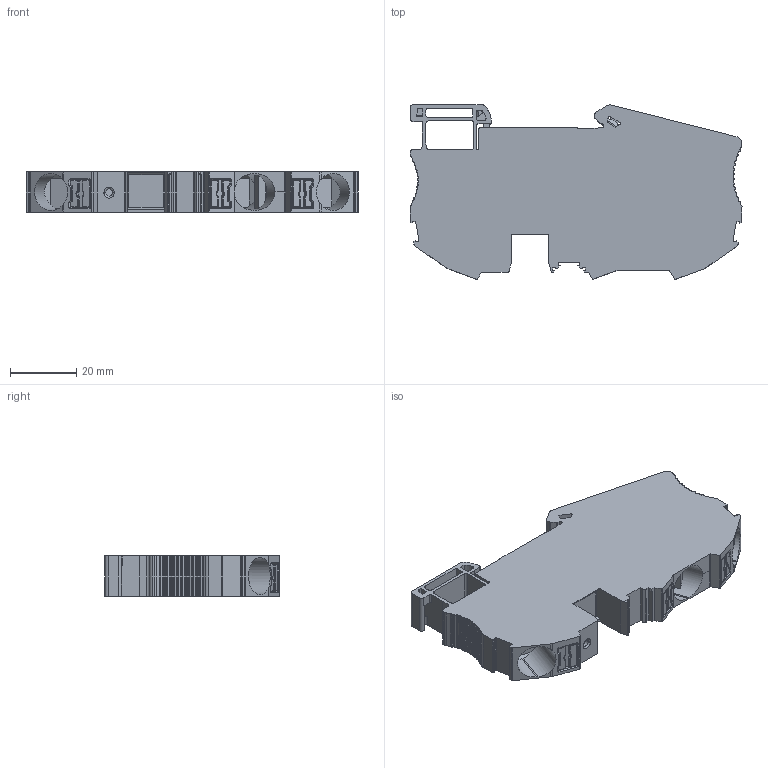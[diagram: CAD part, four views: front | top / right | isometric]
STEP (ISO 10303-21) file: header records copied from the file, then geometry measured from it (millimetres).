
FILE_DESCRIPTION((''),'2;1');
FILE_NAME('UPT-16-1-2PE_ASSY','2024-03-29T16:28:28',('Administrator'),(''),'CREO PARAMETRIC BY PTC INC, 2018050','CREO PARAMETRIC BY PTC INC, 2018050','');
FILE_SCHEMA(('CONFIG_CONTROL_DESIGN'));
Length unit declared in the file: millimetre
Products named in the file (1): UPT-16-1-2PE_ASSY
Bounding box: 100.24 x 52.65 x 12.15 mm (x, y, z)
Volume: 44607.4 mm3; surface area: 18349.1 mm2
Topology: 1 solids, 11 shells, 1314 faces, 3760 edges, 2403 vertices
Faces by surface type: cylinder 593, plane 586, sphere 49, cone 42, torus 34, bspline 9, extrusion 1
Entity records: 43928 total; most frequent: CARTESIAN_POINT 9701, ORIENTED_EDGE 7422, DIRECTION 7032, EDGE_CURVE 3711, AXIS2_PLACEMENT_3D 2423, VERTEX_POINT 2403, VECTOR 2186, LINE 2185
